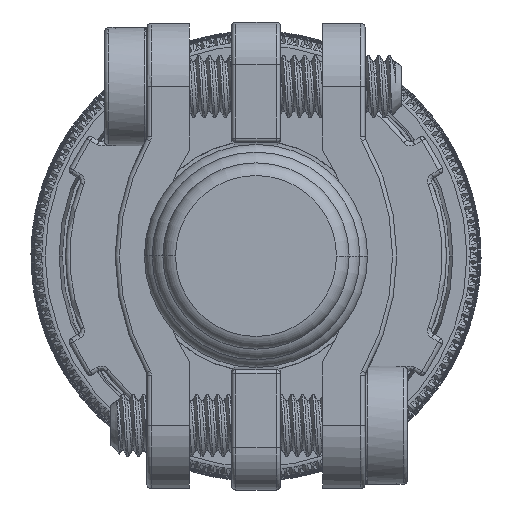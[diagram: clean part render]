
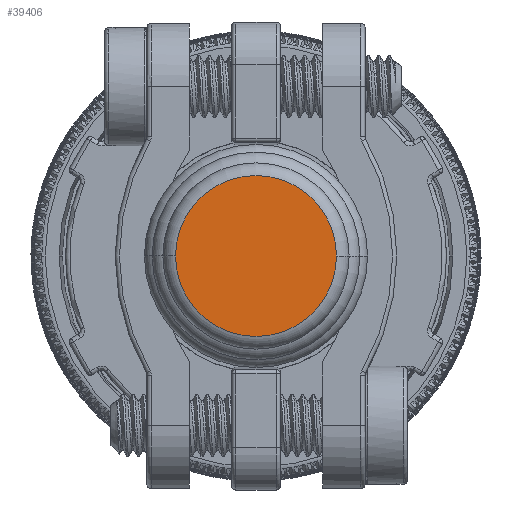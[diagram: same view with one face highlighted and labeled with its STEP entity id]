
A CAD part, front view. The second image highlights one B-rep face of the part: STEP entity #39406.
In plain terms, the highlighted planar face has unit normal (0, -1, 0).
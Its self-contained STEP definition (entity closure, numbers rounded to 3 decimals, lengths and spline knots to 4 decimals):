
#16303=CARTESIAN_POINT('',(0.,-34.426,0.));
#16304=DIRECTION('',(0.,1.,0.));
#16305=DIRECTION('',(1.,0.,0.));
#16306=AXIS2_PLACEMENT_3D('',#16303,#16304,#16305);
#16308=CARTESIAN_POINT('',(0.,-34.426,0.));
#16309=DIRECTION('',(0.,1.,0.));
#16310=DIRECTION('',(-1.,0.,0.));
#16311=AXIS2_PLACEMENT_3D('',#16308,#16309,#16310);
#18612=CARTESIAN_POINT('',(3.8,-34.426,
-0.0001));
#18614=VERTEX_POINT('',#18612);
#18617=CARTESIAN_POINT('',(-3.8,-34.426,
0.0001));
#18618=VERTEX_POINT('',#18617);
#39397=CARTESIAN_POINT('',(0.,-34.4253,0.));
#39398=DIRECTION('',(0.,1.,0.));
#39399=DIRECTION('',(-1.,0.,0.));
#39400=AXIS2_PLACEMENT_3D('',#39397,#39398,#39399);
#39401=PLANE('',#39400);
#39402=ORIENTED_EDGE('',*,*,#39377,.T.);
#39403=ORIENTED_EDGE('',*,*,#39389,.T.);
#39404=EDGE_LOOP('',(#39402,#39403));
#39405=FACE_OUTER_BOUND('',#39404,.F.);
#39406=ADVANCED_FACE('',(#39405),#39401,.F.);
#16307=CIRCLE('',#16306,3.8);
#16312=CIRCLE('',#16311,3.8);
#39377=EDGE_CURVE('',#18614,#18618,#16307,.T.);
#39389=EDGE_CURVE('',#18618,#18614,#16312,.T.);
